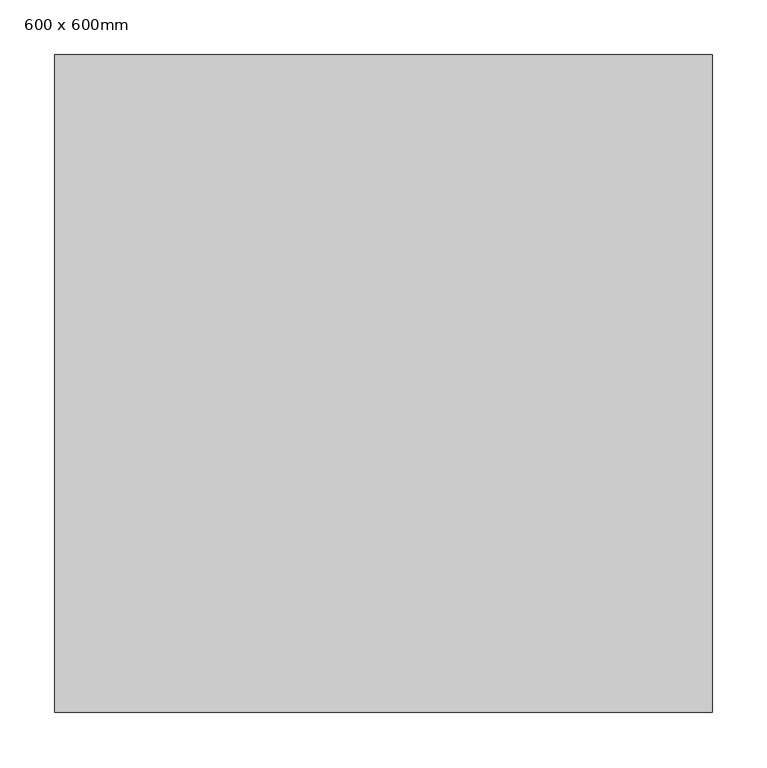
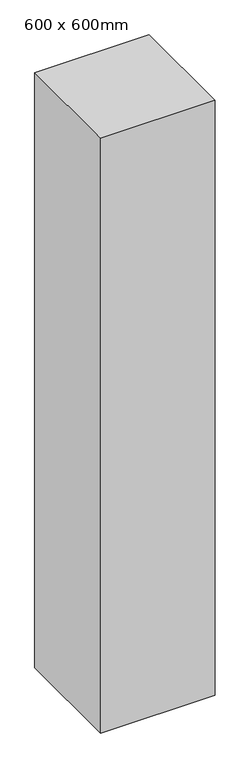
"""IFC4 building model written with IfcOpenShell, lengths in millimetres: column geometry, 混凝土 - 矩形 - 柱 : 600 x 600mm."""

from ifc_helpers import new_model, si_unit, frame, origin, place, context, project, spatial, polyline, outline, extrude, source, transform, mapped, element, save


def column_600_x_600mm_0ba91544(model_context):
    return source(origin(), model_context, "Body", "SweptSolid", [
        extrude(outline(polyline([(300.0, 300.0), (300.0, -300.0), (-300.0, -300.0), (-300.0, 300.0), (300.0, 300.0)])), frame((0.0, 0.0, 10500.0), z_axis=(0.0, 0.0, 1.0), x_axis=(1.0, 0.0, 0.0)), (0.0, 0.0, 1.0), 3300.0),
    ])


if __name__ == "__main__":
    model = new_model("IFC4")
    model_context = context("Model", 3, world=origin())
    ifc_project = project(units=[si_unit("LENGTHUNIT", "METRE", prefix="MILLI")], contexts=[model_context])
    site = spatial("IfcSite", under=ifc_project)
    building = spatial("IfcBuilding", under=site)
    placement = place(None, origin())
    column_600_x_600mm_shape = column_600_x_600mm_0ba91544(model_context)
    element("IfcColumn", 1, ObjectType="混凝土 - 矩形 - 柱 : 600 x 600mm", at=placement, inside=building, context=model_context, shape_type="MappedRepresentation", body=[
        mapped(column_600_x_600mm_shape, transform((0.0, 0.0, 0.0), x_axis=(1.0, 0.0, 0.0), y_axis=(0.0, 1.0, 0.0), z_axis=(0.0, 0.0, 1.0))),
    ])
    save(model, "model.ifc")
